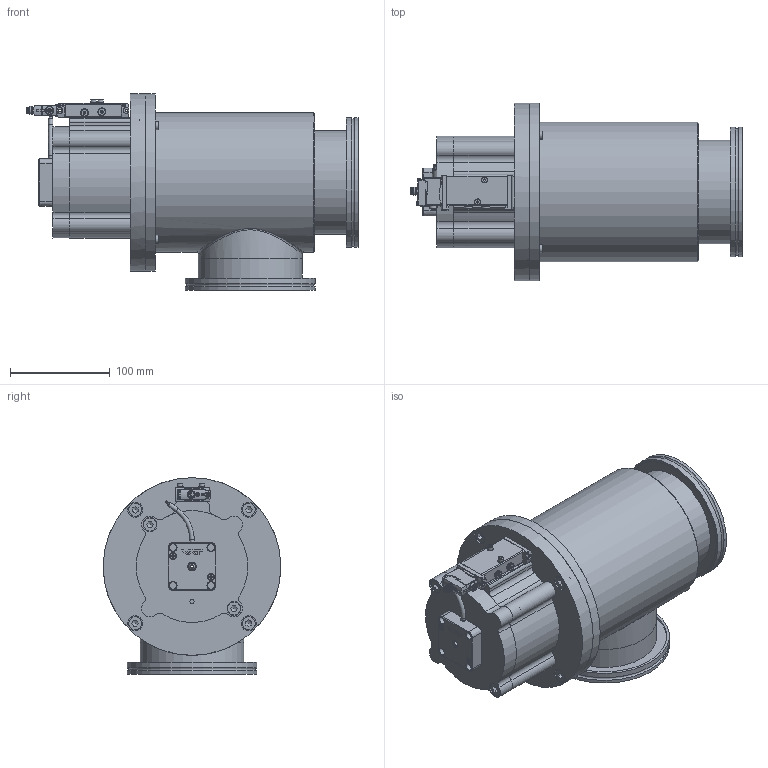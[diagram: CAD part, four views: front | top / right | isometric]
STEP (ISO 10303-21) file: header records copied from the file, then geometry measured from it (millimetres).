
FILE_DESCRIPTION(/* description */ (''),/* implementation_level */ '2;1');
FILE_NAME(/* name */ '1295585152_203.stp',/* time_stamp */ '2013-08-06T17:24:48+02:00',/* author */ (''),/* organization */ (''),/* preprocessor_version */ 'ST-DEVELOPER v11',/* originating_system */ 'SIEMENS PLM Software NX 7.5',/* authorisation */ '');
FILE_SCHEMA (('AP203_CONFIGURATION_CONTROLLED_3D_DESIGN_OF_MECHANICAL_PARTS_AND_ASSEMBLIES_MIM_LF'));
Length unit declared in the file: millimetre
Products named in the file (25): 517238; 513742; 517224; 517223; 517222; 517221; 568561; 571495; n-6134-404.1; n-6005-429.1; n-6121-026.2; 517625_18231ID; 421306; 233359; 236204_1.1; 544232; 542372; 228777; 476060; 573596_MODEL; 542323_MODEL; 517218_MODEL; 522001_MODEL; 421285; 577195
Assembly tree (33 placements, depth 4):
  577195
    476060
    228777  x6
    542372
    421285
      236204_1.1  x2
      233359
      421306
    522001_MODEL
      517218_MODEL
        517221  x2
        517222
        517223
        517224
        513742
        517238
    544232
    542323_MODEL
      517625_18231ID
      n-6121-026.2
    573596_MODEL
      n-6005-429.1  x2
      n-6134-404.1  x2
      571495
      568561
Bounding box: 332.65 x 178 x 197 mm (x, y, z)
Volume: 1180506 mm3; surface area: 473948.2 mm2
Topology: 44 solids, 51 shells, 1424 faces, 3502 edges, 2263 vertices
Faces by surface type: plane 780, cylinder 433, cone 129, torus 50, bspline 19, extrusion 8, sphere 5
Full cylindrical faces by diameter (mm): 1 x2, 1.4 x4, 2.46 x2, 2.5 x7, 2.6 x2, 3 x10, 3.2 x4, 3.8 x1, 3.85 x1, 4.2 x2, 4.5 x3, 5.5 x2, 5.6 x2, 5.8 x1, 6 x2, 6.2 x2, 6.5 x2, 6.66 x6, 6.7 x6, 6.8 x8, 6.9 x1, 7.2 x1, 7.4 x3, 8 x16, 8.1 x1, 8.15 x2, 8.4 x1, 8.566 x1, 9 x8, 10.2 x1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
Entity records: 46954 total; most frequent: CARTESIAN_POINT 9163, DIRECTION 6392, ORIENTED_EDGE 5832, EDGE_CURVE 2916, AXIS2_PLACEMENT_3D 2392, VERTEX_POINT 2003, EDGE_LOOP 1673, VECTOR 1608
